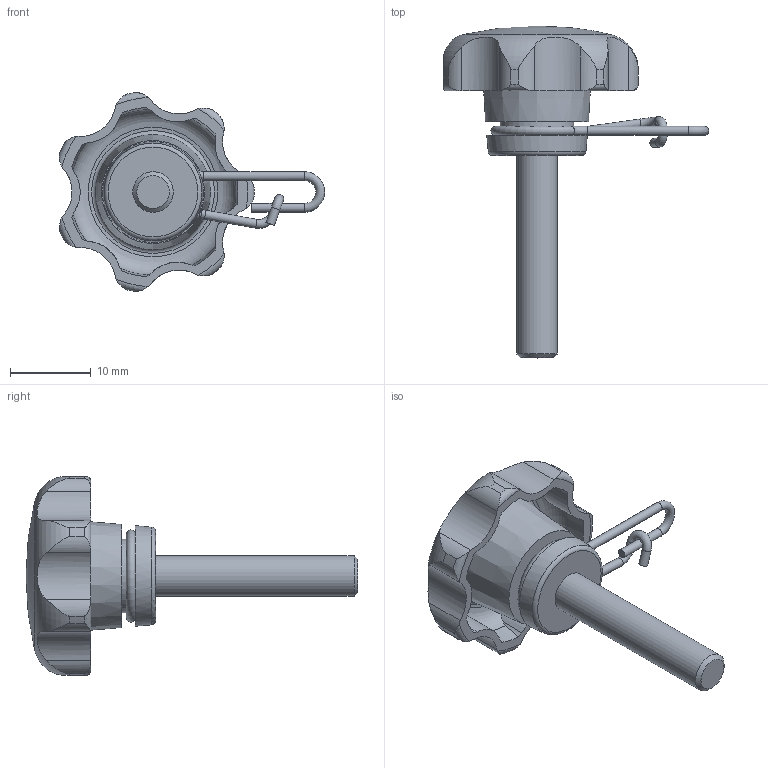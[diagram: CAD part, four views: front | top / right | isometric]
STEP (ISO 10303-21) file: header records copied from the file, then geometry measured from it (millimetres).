
FILE_DESCRIPTION( ( 'STEP AP203' ), '1' );
FILE_NAME( 'C:/Temp/Ganter_Step_05_03_2020/data/2_2/gn_6336_13/gn_6336_13_2/Star knob GN 6336.13-25-M5-25-A.stp', '2020-03-05T12:11:04', ( 'License CC BY-ND 4.0' ), ( 'CADENAS' ), ' ', 'PARTsolutions', ' ' );
FILE_SCHEMA( ( 'CONFIG_CONTROL_DESIGN' ) );
Length unit declared in the file: millimetre
Products named in the file (1): _Star knob GN 6336.13-25-M5-25-A
Bounding box: 32.77 x 41 x 24.58 mm (x, y, z)
Volume: 3557.1 mm3; surface area: 2753.6 mm2
Topology: 1 solids, 1 shells, 99 faces, 271 edges, 176 vertices
Faces by surface type: cylinder 59, torus 18, cone 11, plane 10, sphere 1
Full cylindrical faces by diameter (mm): 1.1 x6, 5 x1, 9.1 x1
Entity records: 3678 total; most frequent: CARTESIAN_POINT 1311, DIRECTION 476, ORIENTED_EDGE 476, EDGE_CURVE 238, AXIS2_PLACEMENT_3D 213, VERTEX_POINT 170, EDGE_LOOP 127, FACE_OUTER_BOUND 117
